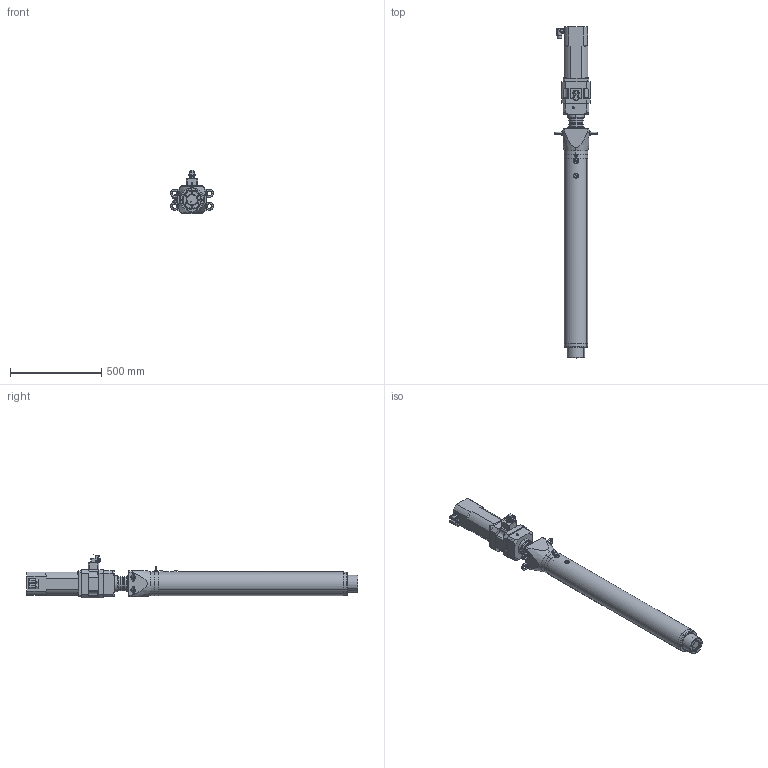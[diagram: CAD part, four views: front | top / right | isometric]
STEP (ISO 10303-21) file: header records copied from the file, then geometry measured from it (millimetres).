
FILE_DESCRIPTION (( 'STEP AP203' ), '1' );
FILE_NAME ('LN5I0300_075_025SG.STEP', '2019-01-31T11:29:17', ( '' ), ( '' ), 'SwSTEP 2.0', 'SolidWorks 2016', '' );
FILE_SCHEMA (( 'CONFIG_CONTROL_DESIGN' ));
Length unit declared in the file: millimetre
Products named in the file (1): LN5I0300_075_025SG
Bounding box: 235 x 1817.5 x 240.04 mm (x, y, z)
Volume: 20412218.7 mm3; surface area: 2023591.2 mm2
Topology: 32 solids, 32 shells, 1344 faces, 3176 edges, 1917 vertices
Faces by surface type: cylinder 523, plane 489, cone 244, torus 68, bspline 18, sphere 2
Entity records: 40099 total; most frequent: CARTESIAN_POINT 8852, DIRECTION 6950, ORIENTED_EDGE 6084, EDGE_CURVE 3042, AXIS2_PLACEMENT_3D 2709, VERTEX_POINT 1917, EDGE_LOOP 1579, LINE 1532
